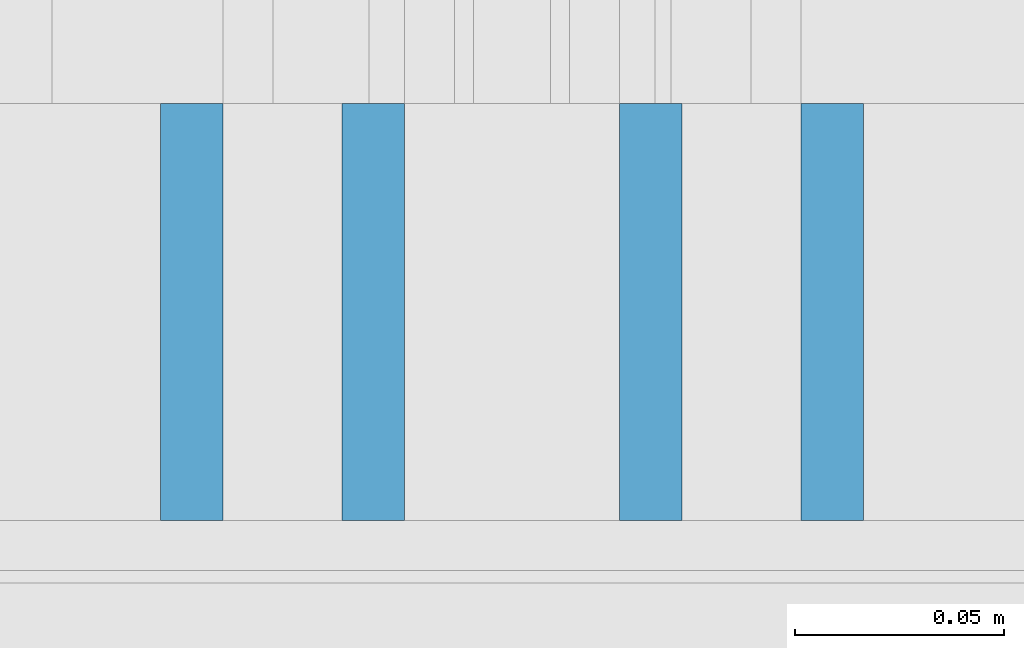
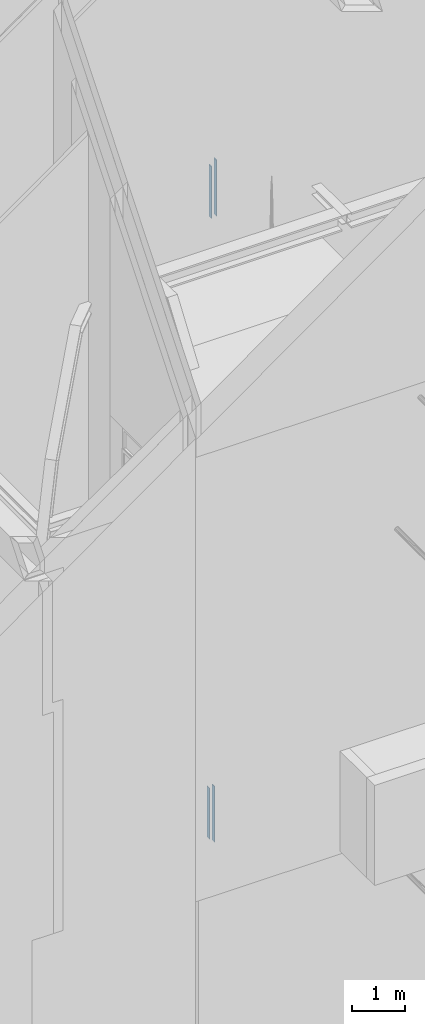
# One storey, part 43 of 583: 4 building element parts, 2 elements without a shape of their own.
"""IFC2X3 building model written with IfcOpenShell, lengths in metres."""

from ifc_helpers import new_model, entity, si_unit, converted_unit, derived_unit, money_unit, direction, frame, origin_with_axes, place, context, subcontext, project, spatial, polyline, outline, extrude, material, type_object, element, aggregate, save


model = new_model("IFC2X3")

# Units and contexts
model_context = context("Model", 3, precision=1e-05, world=origin_with_axes(), true_north=direction((0.0, 1.0)))
body_context = subcontext(model_context, "Body", "Model", "MODEL_VIEW", scale=1.0)
ifc_project = project(units=[si_unit("LENGTHUNIT", "METRE"), si_unit("AREAUNIT", "SQUARE_METRE"), si_unit("VOLUMEUNIT", "CUBIC_METRE"), si_unit("ABSORBEDDOSEUNIT", "GRAY"), si_unit("AMOUNTOFSUBSTANCEUNIT", "MOLE"), si_unit("DOSEEQUIVALENTUNIT", "SIEVERT"), si_unit("ELECTRICCAPACITANCEUNIT", "FARAD"), si_unit("ELECTRICCHARGEUNIT", "COULOMB"), si_unit("ELECTRICCONDUCTANCEUNIT", "SIEMENS"), si_unit("ELECTRICCURRENTUNIT", "AMPERE"), si_unit("ELECTRICRESISTANCEUNIT", "OHM"), si_unit("ELECTRICVOLTAGEUNIT", "VOLT"), si_unit("ENERGYUNIT", "JOULE"), si_unit("FORCEUNIT", "NEWTON"), si_unit("FREQUENCYUNIT", "HERTZ"), si_unit("ILLUMINANCEUNIT", "LUX"), si_unit("INDUCTANCEUNIT", "HENRY"), si_unit("LUMINOUSFLUXUNIT", "LUMEN"), si_unit("LUMINOUSINTENSITYUNIT", "CANDELA"), si_unit("MAGNETICFLUXDENSITYUNIT", "TESLA"), si_unit("MAGNETICFLUXUNIT", "WEBER"), si_unit("MASSUNIT", "GRAM"), converted_unit("PLANEANGLEUNIT", "degree", entity("IfcReal", 0.0174532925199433), si_unit("PLANEANGLEUNIT", "RADIAN"), dimensions=[0, 0, 0, 0, 0, 0, 0]), si_unit("POWERUNIT", "WATT"), si_unit("PRESSUREUNIT", "PASCAL"), si_unit("RADIOACTIVITYUNIT", "BECQUEREL"), si_unit("SOLIDANGLEUNIT", "STERADIAN"), si_unit("THERMODYNAMICTEMPERATUREUNIT", "KELVIN"), si_unit("TIMEUNIT", "SECOND"), derived_unit("ACCELERATIONUNIT", [(si_unit("LENGTHUNIT", "METRE"), 1), (si_unit("TIMEUNIT", "SECOND"), -2)]), derived_unit("ANGULARVELOCITYUNIT", [(converted_unit("PLANEANGLEUNIT", "degree", entity("IfcReal", 0.0174532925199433), si_unit("PLANEANGLEUNIT", "RADIAN"), dimensions=[0, 0, 0, 0, 0, 0, 0]), 1), (si_unit("TIMEUNIT", "SECOND"), -1)]), derived_unit("CURVATUREUNIT", [(converted_unit("PLANEANGLEUNIT", "degree", entity("IfcReal", 0.0174532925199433), si_unit("PLANEANGLEUNIT", "RADIAN"), dimensions=[0, 0, 0, 0, 0, 0, 0]), 1), (si_unit("LENGTHUNIT", "METRE"), -1)]), derived_unit("DYNAMICVISCOSITYUNIT", [(si_unit("PRESSUREUNIT", "PASCAL"), 1), (si_unit("TIMEUNIT", "SECOND"), 1)]), derived_unit("HEATFLUXDENSITYUNIT", [(si_unit("POWERUNIT", "WATT"), 1), (si_unit("LENGTHUNIT", "METRE"), -2)]), derived_unit("HEATINGVALUEUNIT", [(si_unit("ENERGYUNIT", "JOULE"), 1), (si_unit("MASSUNIT", "GRAM"), -1)]), derived_unit("INTEGERCOUNTRATEUNIT", [(si_unit("TIMEUNIT", "SECOND"), -1)]), derived_unit("IONCONCENTRATIONUNIT", [(si_unit("MASSUNIT", "GRAM"), 1), (si_unit("VOLUMEUNIT", "CUBIC_METRE"), -1)]), derived_unit("ISOTHERMALMOISTURECAPACITYUNIT", [(si_unit("VOLUMEUNIT", "CUBIC_METRE"), 1), (si_unit("MASSUNIT", "GRAM"), -1)]), derived_unit("KINEMATICVISCOSITYUNIT", [(si_unit("AREAUNIT", "SQUARE_METRE"), 1), (si_unit("TIMEUNIT", "SECOND"), -1)]), derived_unit("LINEARFORCEUNIT", [(si_unit("FORCEUNIT", "NEWTON"), 1), (si_unit("LENGTHUNIT", "METRE"), -1)]), derived_unit("LINEARMOMENTUNIT", [(si_unit("FORCEUNIT", "NEWTON"), 1), (si_unit("LENGTHUNIT", "METRE"), -1)]), derived_unit("LINEARSTIFFNESSUNIT", [(si_unit("FORCEUNIT", "NEWTON"), 1), (si_unit("LENGTHUNIT", "METRE"), -1)]), derived_unit("LINEARVELOCITYUNIT", [(si_unit("LENGTHUNIT", "METRE"), 1), (si_unit("TIMEUNIT", "SECOND"), -1)]), derived_unit("LUMINOUSINTENSITYDISTRIBUTIONUNIT", [(si_unit("LUMINOUSINTENSITYUNIT", "CANDELA"), 1), (si_unit("LUMINOUSFLUXUNIT", "LUMEN"), -1)]), derived_unit("MASSDENSITYUNIT", [(si_unit("MASSUNIT", "GRAM"), 1), (si_unit("VOLUMEUNIT", "CUBIC_METRE"), -1)]), derived_unit("MASSFLOWRATEUNIT", [(si_unit("MASSUNIT", "GRAM"), 1), (si_unit("TIMEUNIT", "SECOND"), -1)]), derived_unit("MASSPERLENGTHUNIT", [(si_unit("MASSUNIT", "GRAM"), 1), (si_unit("LENGTHUNIT", "METRE"), -1)]), derived_unit("MODULUSOFELASTICITYUNIT", [(si_unit("FORCEUNIT", "NEWTON"), 1), (si_unit("AREAUNIT", "SQUARE_METRE"), -1)]), derived_unit("MODULUSOFLINEARSUBGRADEREACTIONUNIT", [(si_unit("FORCEUNIT", "NEWTON"), 1), (si_unit("LENGTHUNIT", "METRE"), -2)]), derived_unit("MODULUSOFROTATIONALSUBGRADEREACTIONUNIT", [(si_unit("FORCEUNIT", "NEWTON"), 1), (si_unit("LENGTHUNIT", "METRE"), 1)]), derived_unit("MODULUSOFSUBGRADEREACTIONUNIT", [(si_unit("FORCEUNIT", "NEWTON"), 1), (si_unit("VOLUMEUNIT", "CUBIC_METRE"), -1)]), derived_unit("MOISTUREDIFFUSIVITYUNIT", [(si_unit("VOLUMEUNIT", "CUBIC_METRE"), 1), (si_unit("TIMEUNIT", "SECOND"), -1)]), derived_unit("MOLECULARWEIGHTUNIT", [(si_unit("MASSUNIT", "GRAM"), 1), (si_unit("AMOUNTOFSUBSTANCEUNIT", "MOLE"), -1)]), derived_unit("PLANARFORCEUNIT", [(si_unit("FORCEUNIT", "NEWTON"), 1), (si_unit("LENGTHUNIT", "METRE"), -2)]), derived_unit("ROTATIONALFREQUENCYUNIT", [(si_unit("TIMEUNIT", "SECOND"), -1)]), derived_unit("ROTATIONALMASSUNIT", [(si_unit("MASSUNIT", "GRAM"), 1), (si_unit("LENGTHUNIT", "METRE"), 2)]), derived_unit("ROTATIONALSTIFFNESSUNIT", [(si_unit("FORCEUNIT", "NEWTON"), 1), (si_unit("LENGTHUNIT", "METRE"), 1), (converted_unit("PLANEANGLEUNIT", "degree", entity("IfcReal", 0.0174532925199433), si_unit("PLANEANGLEUNIT", "RADIAN"), dimensions=[0, 0, 0, 0, 0, 0, 0]), -1)]), derived_unit("SECTIONAREAINTEGRALUNIT", [(si_unit("LENGTHUNIT", "METRE"), 5)]), derived_unit("SECTIONMODULUSUNIT", [(si_unit("LENGTHUNIT", "METRE"), 3)]), derived_unit("SHEARMODULUSUNIT", [(si_unit("FORCEUNIT", "NEWTON"), 1), (si_unit("AREAUNIT", "SQUARE_METRE"), -1)]), derived_unit("SOUNDPOWERUNIT", [(si_unit("ENERGYUNIT", "JOULE"), 1), (si_unit("TIMEUNIT", "SECOND"), -1)]), derived_unit("SPECIFICHEATCAPACITYUNIT", [(si_unit("FORCEUNIT", "NEWTON"), 1), (si_unit("MASSUNIT", "GRAM"), -1), (si_unit("THERMODYNAMICTEMPERATUREUNIT", "KELVIN"), -1)]), derived_unit("TEMPERATUREGRADIENTUNIT", [(si_unit("THERMODYNAMICTEMPERATUREUNIT", "KELVIN"), 1), (si_unit("LENGTHUNIT", "METRE"), -1)]), derived_unit("THERMALADMITTANCEUNIT", [(si_unit("POWERUNIT", "WATT"), 1), (si_unit("AREAUNIT", "SQUARE_METRE"), -1), (si_unit("THERMODYNAMICTEMPERATUREUNIT", "KELVIN"), -1)]), derived_unit("THERMALCONDUCTANCEUNIT", [(si_unit("POWERUNIT", "WATT"), 1), (si_unit("LENGTHUNIT", "METRE"), -1), (si_unit("THERMODYNAMICTEMPERATUREUNIT", "KELVIN"), -1)]), derived_unit("THERMALEXPANSIONCOEFFICIENTUNIT", [(si_unit("THERMODYNAMICTEMPERATUREUNIT", "KELVIN"), -1)]), derived_unit("THERMALRESISTANCEUNIT", [(si_unit("AREAUNIT", "SQUARE_METRE"), 1), (si_unit("POWERUNIT", "WATT"), -1)]), derived_unit("THERMALTRANSMITTANCEUNIT", [(si_unit("POWERUNIT", "WATT"), 1), (si_unit("AREAUNIT", "SQUARE_METRE"), -1), (si_unit("THERMODYNAMICTEMPERATUREUNIT", "KELVIN"), -1)]), derived_unit("TORQUEUNIT", [(si_unit("FORCEUNIT", "NEWTON"), 1), (si_unit("LENGTHUNIT", "METRE"), 1)]), derived_unit("VAPORPERMEABILITYUNIT", [(si_unit("MASSUNIT", "GRAM"), 1), (si_unit("TIMEUNIT", "SECOND"), -1)]), derived_unit("VOLUMETRICFLOWRATEUNIT", [(si_unit("VOLUMEUNIT", "CUBIC_METRE"), 1), (si_unit("TIMEUNIT", "SECOND"), -1)]), derived_unit("WARPINGCONSTANTUNIT", [(si_unit("LENGTHUNIT", "METRE"), 6)]), derived_unit("WARPINGMOMENTUNIT", [(si_unit("FORCEUNIT", "NEWTON"), 1), (si_unit("LENGTHUNIT", "METRE"), 2)]), money_unit("GBP")], contexts=[model_context])

# Site, building, storey
site_placement = place(None, origin_with_axes())
site = spatial("IfcSite", under=ifc_project, at=site_placement, Name="Site", CompositionType="ELEMENT")
building_placement = place(site_placement, origin_with_axes())
building = spatial("IfcBuilding", under=site, at=building_placement, Name="Building01", CompositionType="ELEMENT")
storey_placement = place(building_placement, frame((0.0, 0.0, 20.78), z_axis=(0.0, 0.0, 1.0), x_axis=(1.0, 0.0, 0.0)))
storey = spatial("IfcBuildingStorey", under=building, at=storey_placement, Name="RL", CompositionType="ELEMENT", Elevation=20.78)

# Wall, building element parts
wall_type = type_object("IfcWallType", Name="SHE_A-Walls_Type05a_Partition_95mm_tall", PredefinedType="NOTDEFINED")
wall_1_placement = place(storey_placement, frame((7.215, 5.15, 0.602661), z_axis=(0.0, 1.0, 0.0), x_axis=(0.0, 0.0, -1.0)))
wall_1 = element("IfcWall", 1, at=wall_1_placement, inside=storey, type_object=wall_type, Name="5A", ObjectType="SHE_A-Walls_Type05a_Partition_95mm_tall")
ifc_material = material(Name="A_BSUK_Walls_Timber")
placement_1 = place(wall_1_placement, origin_with_axes())
building_element_part_1 = element("IfcBuildingElementPart", 2, at=placement_1, material=ifc_material, Name="2", context=body_context, shape_type="SweptSolid", body=[
    extrude(outline(polyline([(1.26, 0.075), (0.075, 0.075), (0.06, 0.06), (1.26, 0.06), (1.26, 0.075)])), frame((0.0, 0.0, 0.015), z_axis=(0.0, 0.0, 1.0), x_axis=(1.0, 0.0, 0.0)), (0.0, 0.0, 1.0), 0.1),
])
building_element_part_2 = element("IfcBuildingElementPart", 3, at=placement_1, material=ifc_material, Name="3", context=body_context, shape_type="SweptSolid", body=[
    extrude(outline(polyline([(1.245, -0.035), (-0.035, -0.035), (-0.05, -0.05), (1.245, -0.05), (1.245, -0.035)])), frame((0.0, 0.0, 0.015), z_axis=(0.0, 0.0, 1.0), x_axis=(1.0, 0.0, 0.0)), (0.0, 0.0, 1.0), 0.1),
])
aggregate(wall_1, [building_element_part_1, building_element_part_2])

wall_2_placement = place(storey_placement, frame((7.171475, 5.15, -14.975331), z_axis=(0.0, 1.0, 0.0), x_axis=(0.0, 0.0, 1.0)))
wall_2 = element("IfcWall", 4, at=wall_2_placement, inside=storey, type_object=wall_type, Name="5A", ObjectType="SHE_A-Walls_Type05a_Partition_95mm_tall")
placement_2 = place(wall_2_placement, origin_with_axes())
building_element_part_3 = element("IfcBuildingElementPart", 5, at=placement_2, material=ifc_material, Name="2", context=body_context, shape_type="SweptSolid", body=[
    extrude(outline(polyline([(1.245, -0.06), (0.06, -0.06), (0.075, -0.075), (1.245, -0.075), (1.245, -0.06)])), frame((0.0, 0.0, 0.015), z_axis=(0.0, 0.0, 1.0), x_axis=(1.0, 0.0, 0.0)), (0.0, 0.0, 1.0), 0.1),
])
building_element_part_4 = element("IfcBuildingElementPart", 6, at=placement_2, material=ifc_material, Name="3", context=body_context, shape_type="SweptSolid", body=[
    extrude(outline(polyline([(1.245, 0.05), (-0.05, 0.05), (-0.035, 0.035), (1.245, 0.035), (1.245, 0.05)])), frame((0.0, 0.0, 0.015), z_axis=(0.0, 0.0, 1.0), x_axis=(1.0, 0.0, 0.0)), (0.0, 0.0, 1.0), 0.1),
])
aggregate(wall_2, [building_element_part_3, building_element_part_4])

save(model, "model.ifc")
